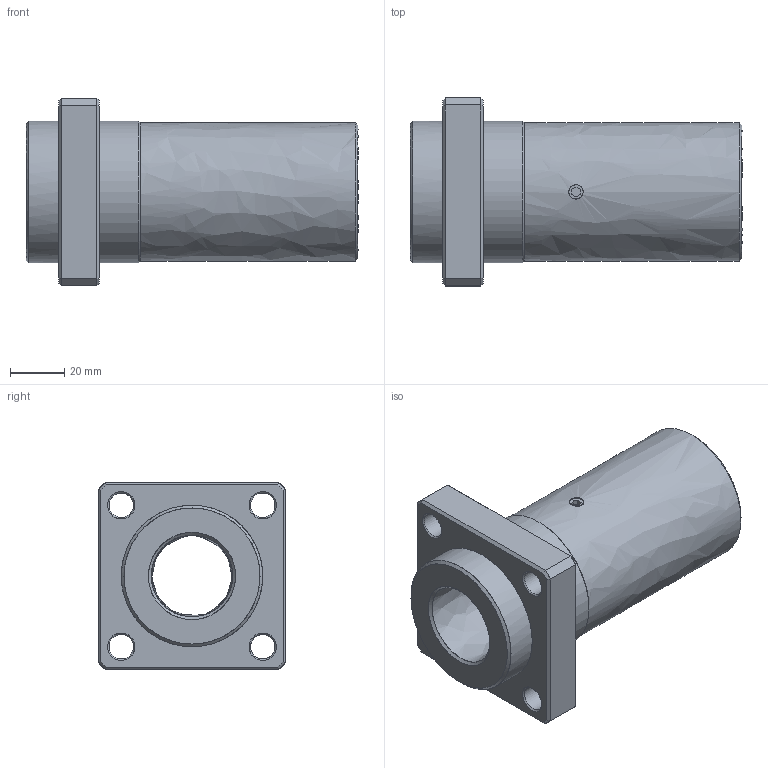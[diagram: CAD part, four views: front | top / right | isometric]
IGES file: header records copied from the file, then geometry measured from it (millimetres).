
Start section: Missler Software 3 rue Hermes, EUROPARC, 31520 Ramonville-Saint-Agne, France Tel   : +33 (0)5 61 00 03 00 Fax   : +33 (0)5 61 00 03 03 Email : sup.solid@topsolid.com
Global section: file name: \\192.168.1.1\share\s-4 技術開発\s-4-4_CAD\s-4-4-3_見直し済み\009 修正済み\LCF-B(済)\LCF-B_TOP\LCF-30BUU.igs; native system: TopSolid v611216 Missler Software; preprocessor: IGES preprocessor v100000; author: yu; organization: コダマコーポレーション株式会社, 10,7,13H22020; date: 220203.164948; units: millimetre
Bounding box: 122 x 69 x 69 mm (x, y, z)
Surface area: 41649.5 mm2 (no closed solid volume)
Topology: 0 solids, 0 shells, 62 faces, 690 edges, 679 vertices
Faces by surface type: bspline 62
